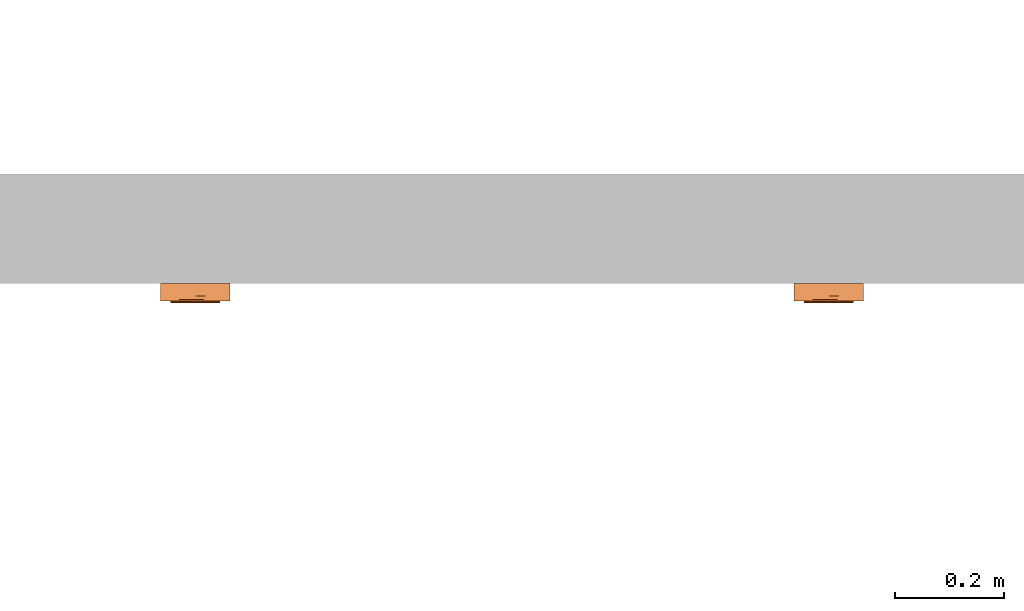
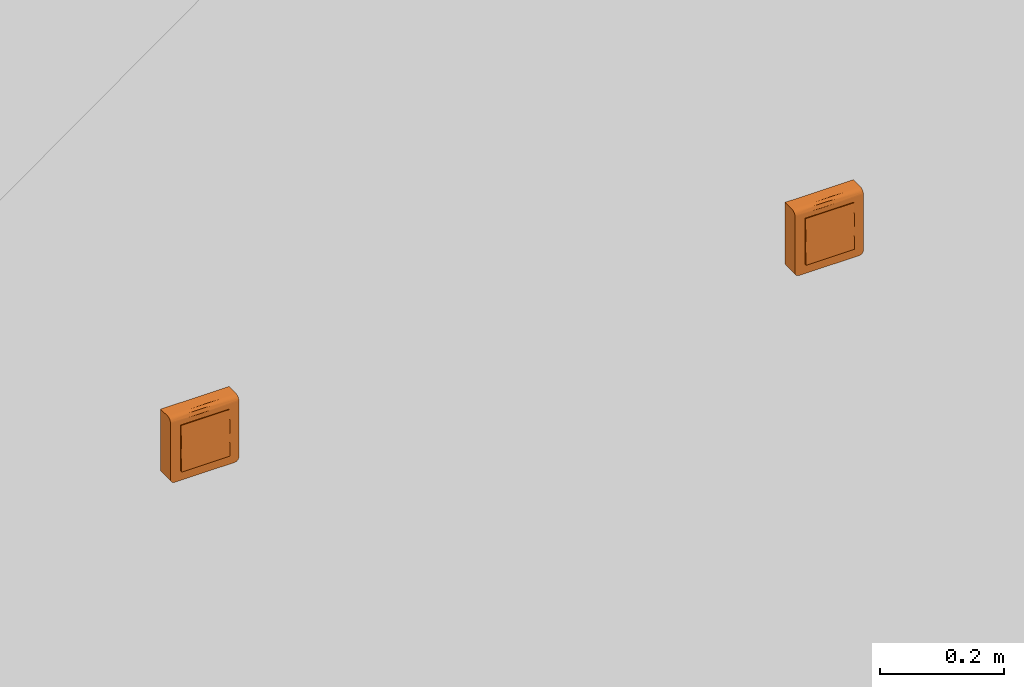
# One storey, part 164 of 197: 2 proxies.
"""IFC2X3 building model written with IfcOpenShell, lengths in metres."""

from ifc_helpers import new_model, entity, si_unit, converted_unit, direction, frame, origin, place, context, subcontext, project, spatial, faceted_brep, source, transform, mapped, material, material_list, type_object, type_shapes, element, save


model = new_model("IFC2X3")

# Units and contexts
model_context = context("Model", 3, precision=1e-05, world=origin(), true_north=direction((6.123031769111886e-17, 1.0)))
body_context = subcontext(model_context, "Body", "Model", "MODEL_VIEW")
ifc_project = project(units=[si_unit("LENGTHUNIT", "METRE"), converted_unit("PLANEANGLEUNIT", "DEGREE", entity("IfcPlaneAngleMeasure", 0.017453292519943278), si_unit("PLANEANGLEUNIT", "RADIAN"), dimensions=[0, 0, 0, 0, 0, 0, 0]), si_unit("AREAUNIT", "SQUARE_METRE")], contexts=[model_context])

# Site, building, storey
site_placement = place(None, origin())
site = spatial("IfcSite", under=ifc_project, at=site_placement, Name="Default", CompositionType="ELEMENT")
building_placement = place(site_placement, origin())
building = spatial("IfcBuilding", under=site, at=building_placement, CompositionType="ELEMENT")
storey_placement = place(building_placement, origin())
storey = spatial("IfcBuildingStorey", under=building, at=storey_placement, Name="Niveau 0", CompositionType="ELEMENT", Elevation=0.0)

# Proxies
ifc_material_1 = material(Name="BETCE-CADRE-BLANC")
ifc_material_2 = material(Name="BETCE-DOIGT-BLANC")
ifc_material_3 = material(Name="BETCE-ENJOLIVEUR-BLANC")
ifc_material_list = material_list([ifc_material_1, ifc_material_2, ifc_material_3])
building_element_proxy_type_1 = type_object("IfcBuildingElementProxyType", Name="Tableau commande 2x4 modules saillie:5 BP + 3 SA", PredefinedType="NOTDEFINED", material=ifc_material_list)
shared_shape_1 = source(origin(), body_context, "Body", "Brep", [
    faceted_brep([(0.06349999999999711, -0.022999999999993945, 0.0635), (-0.06350000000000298, -0.022999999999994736, 0.0635), (-0.06350000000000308, -0.022999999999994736, -0.055499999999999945), (-0.06322740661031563, -0.022999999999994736, -0.05757055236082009), (-0.06242820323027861, -0.02299999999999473, -0.059499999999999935), (-0.06115685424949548, -0.022999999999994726, -0.06115685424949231), (-0.05950000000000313, -0.022999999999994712, -0.06242820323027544), (-0.05757055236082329, -0.0229999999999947, -0.06322740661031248), (-0.05550000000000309, -0.022999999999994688, -0.06350000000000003), (0.055499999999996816, -0.022999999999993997, -0.0635000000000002), (0.057570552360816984, -0.022999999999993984, -0.06322740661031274), (0.05949999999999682, -0.022999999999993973, -0.062428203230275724), (0.06115685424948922, -0.022999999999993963, -0.061156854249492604), (0.062428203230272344, -0.022999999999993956, -0.05950000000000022), (0.0632274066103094, -0.022999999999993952, -0.0575705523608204), (0.06349999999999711, -0.022999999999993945, -0.05550000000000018), (-0.05550000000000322, 0.0, -0.06349999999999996), (-0.05757055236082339, 0.0, -0.06322740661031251), (-0.05950000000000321, 0.0, -0.062428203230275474), (-0.06115685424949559, 0.0, -0.06115685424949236), (-0.06242820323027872, 0.0, -0.05949999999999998), (-0.06322740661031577, 0.0, -0.05757055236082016), (-0.06350000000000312, 0.0, -0.055499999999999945), (-0.06350000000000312, 0.0, 0.0635), (0.06349999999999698, 0.0, 0.0635), (0.06349999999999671, 0.0, -0.05550000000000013), (0.06322740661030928, 0.0, -0.0575705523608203), (0.06242820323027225, 0.0, -0.05950000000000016), (0.06115685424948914, 0.0, -0.061156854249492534), (0.059499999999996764, 0.0, -0.062428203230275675), (0.05757055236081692, 0.0, -0.06322740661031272), (0.055499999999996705, 0.0, -0.0635)], [[[0, 1, 2, 3, 4, 5, 6, 7, 8, 9, 10, 11, 12, 13, 14, 15]], [[16, 17, 18, 19, 20, 21, 22, 23, 24, 25, 26, 27, 28, 29, 30, 31]], [[2, 1, 23, 22]], [[9, 8, 16, 31]], [[0, 15, 25, 24]], [[1, 0, 24, 23]], [[25, 15, 14, 26]], [[26, 14, 13, 27]], [[27, 13, 12, 28]], [[29, 11, 10, 30]], [[30, 10, 9, 31]], [[28, 12, 11, 29]], [[17, 16, 8, 7]], [[18, 17, 7, 6]], [[19, 18, 6, 5]], [[20, 19, 5, 4]], [[21, 20, 4, 3]], [[22, 21, 3, 2]]]),
    faceted_brep([(0.022499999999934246, -0.022999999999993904, -0.045000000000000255), (0.022499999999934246, -0.022999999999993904, 0.0), (0.04499999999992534, -0.022999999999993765, 0.0), (0.04499999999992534, -0.022999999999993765, -0.045000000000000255), (0.022499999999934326, -0.03574999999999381, -0.045000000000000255), (0.02249999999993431, -0.033499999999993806, 0.0), (0.044999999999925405, -0.03349999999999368, 0.0), (0.04499999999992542, -0.03574999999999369, -0.045000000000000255)], [[[0, 1, 2, 3]], [[1, 0, 4, 5]], [[2, 1, 5, 6]], [[3, 2, 6, 7]], [[0, 3, 7, 4]], [[5, 4, 7, 6]]]),
    faceted_brep([(0.0, -0.022999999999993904, -0.04500000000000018), (0.0, -0.022999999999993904, 0.0), (0.02249999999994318, -0.022999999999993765, 0.0), (0.02249999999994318, -0.022999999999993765, -0.04500000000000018), (0.0, -0.03574999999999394, -0.04500000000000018), (0.0, -0.03349999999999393, 0.0), (0.022499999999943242, -0.033499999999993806, 0.0), (0.02249999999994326, -0.03574999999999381, -0.04500000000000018)], [[[0, 1, 2, 3]], [[1, 0, 4, 5]], [[2, 1, 5, 6]], [[3, 2, 6, 7]], [[0, 3, 7, 4]], [[5, 4, 7, 6]]]),
    faceted_brep([(-0.02250000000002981, -0.022999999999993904, -0.0450000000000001), (-0.02250000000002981, -0.022999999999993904, 0.0), (0.0, -0.022999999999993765, 0.0), (0.0, -0.022999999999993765, -0.0450000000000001), (-0.02250000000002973, -0.03574999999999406, -0.0450000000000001), (-0.022500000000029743, -0.03349999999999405, 0.0), (0.0, -0.033499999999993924, 0.0), (0.0, -0.03574999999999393, -0.0450000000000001)], [[[0, 1, 2, 3]], [[1, 0, 4, 5]], [[2, 1, 5, 6]], [[3, 2, 6, 7]], [[0, 3, 7, 4]], [[5, 4, 7, 6]]]),
    faceted_brep([(-0.04500000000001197, -0.022999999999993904, -0.045000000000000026), (-0.04500000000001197, -0.022999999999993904, 0.0), (-0.022500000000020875, -0.022999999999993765, 0.0), (-0.022500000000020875, -0.022999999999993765, -0.045000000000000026), (-0.04500000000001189, -0.03574999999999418, -0.045000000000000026), (-0.0450000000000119, -0.03349999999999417, 0.0), (-0.02250000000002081, -0.03349999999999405, 0.0), (-0.022500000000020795, -0.03574999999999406, -0.045000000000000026)], [[[0, 1, 2, 3]], [[1, 0, 4, 5]], [[2, 1, 5, 6]], [[3, 2, 6, 7]], [[0, 3, 7, 4]], [[5, 4, 7, 6]]]),
    faceted_brep([(0.02249999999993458, -0.03349999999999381, 0.04499999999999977), (0.022499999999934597, -0.03574999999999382, 0.0), (0.04499999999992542, -0.0357499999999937, 0.0), (0.044999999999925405, -0.03349999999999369, 0.04499999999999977), (0.022499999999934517, -0.022999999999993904, 0.0), (0.022499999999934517, -0.022999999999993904, 0.04499999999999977), (0.04499999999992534, -0.022999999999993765, 0.04499999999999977), (0.04499999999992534, -0.022999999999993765, 0.0)], [[[0, 1, 2, 3]], [[4, 5, 6, 7]], [[5, 4, 1, 0]], [[6, 5, 0, 3]], [[7, 6, 3, 2]], [[4, 7, 2, 1]]]),
    faceted_brep([(0.0, -0.03349999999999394, 0.044999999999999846), (0.0, -0.035749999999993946, 0.0), (0.02249999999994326, -0.03574999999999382, 0.0), (0.022499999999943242, -0.03349999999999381, 0.044999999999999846), (0.0, -0.022999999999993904, 0.0), (0.0, -0.022999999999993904, 0.044999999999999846), (0.02249999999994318, -0.022999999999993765, 0.04499999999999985), (0.02249999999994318, -0.022999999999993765, 0.0)], [[[0, 1, 2, 3]], [[4, 5, 6, 7]], [[5, 4, 1, 0]], [[6, 5, 0, 3]], [[7, 6, 3, 2]], [[4, 7, 2, 1]]]),
    faceted_brep([(-0.022500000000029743, -0.03349999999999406, 0.04499999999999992), (-0.02250000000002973, -0.03574999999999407, 0.0), (0.0, -0.03574999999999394, 0.0), (0.0, -0.03349999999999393, 0.04499999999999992), (-0.02250000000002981, -0.022999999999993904, 0.0), (-0.02250000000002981, -0.022999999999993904, 0.04499999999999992), (0.0, -0.022999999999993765, 0.04499999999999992), (0.0, -0.022999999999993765, 0.0)], [[[0, 1, 2, 3]], [[4, 5, 6, 7]], [[5, 4, 1, 0]], [[6, 5, 0, 3]], [[7, 6, 3, 2]], [[4, 7, 2, 1]]]),
    faceted_brep([(-0.04500000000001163, -0.03349999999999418, 0.045), (-0.045000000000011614, -0.03574999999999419, 0.0), (-0.022500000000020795, -0.035749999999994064, 0.0), (-0.02250000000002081, -0.03349999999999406, 0.045), (-0.0450000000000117, -0.022999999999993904, 0.0), (-0.0450000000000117, -0.022999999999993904, 0.045), (-0.022500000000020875, -0.022999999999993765, 0.045000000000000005), (-0.022500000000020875, -0.022999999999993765, 0.0)], [[[0, 1, 2, 3]], [[4, 5, 6, 7]], [[5, 4, 1, 0]], [[6, 5, 0, 3]], [[7, 6, 3, 2]], [[4, 7, 2, 1]]]),
    faceted_brep([(0.06349999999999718, -0.03199999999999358, -0.055500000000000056), (0.063499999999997, -0.03199999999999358, 0.05450000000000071), (0.04499999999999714, -0.03199999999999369, -0.045000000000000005), (0.05549999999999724, -0.03199999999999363, -0.06350000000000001), (0.057570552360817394, -0.03199999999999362, -0.06322740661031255), (0.06322740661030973, -0.03199999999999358, -0.05757055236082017), (0.04499999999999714, -0.03199999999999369, 0.045), (-0.04500000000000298, -0.031999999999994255, 0.045000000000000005), (-0.011124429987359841, -0.03199999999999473, 0.054500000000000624), (-0.06350000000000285, -0.03199999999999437, 0.05450000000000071), (-0.04500000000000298, -0.031999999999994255, -0.045000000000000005), (-0.06350000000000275, -0.03199999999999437, -0.05550000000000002), (-0.05550000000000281, -0.03199999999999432, -0.06350000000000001), (-0.05757055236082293, -0.03199999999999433, -0.06322740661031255), (-0.06322740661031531, -0.031999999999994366, -0.05757055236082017), (-0.05950000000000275, -0.031999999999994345, -0.062428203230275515), (-0.06242820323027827, -0.03199999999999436, -0.05950000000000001), (-0.06115685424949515, -0.03199999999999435, -0.06115685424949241), (0.05949999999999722, -0.0319999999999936, -0.062428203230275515), (0.062428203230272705, -0.03199999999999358, -0.05949999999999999), (0.06115685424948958, -0.031999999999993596, -0.061156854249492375), (-0.06350000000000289, -0.02299999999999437, -0.05550000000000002), (-0.06350000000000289, -0.02299999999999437, 0.06350000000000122), (-0.04500000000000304, -0.02299999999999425, 0.045000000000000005), (-0.04500000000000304, -0.02299999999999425, -0.045000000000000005), (-0.05550000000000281, -0.02299999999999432, -0.06350000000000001), (-0.06322740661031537, -0.022999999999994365, -0.05757055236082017), (0.04499999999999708, -0.022999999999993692, 0.045000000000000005), (0.011124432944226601, -0.022999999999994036, 0.06350000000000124), (0.06349999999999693, -0.022999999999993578, 0.0635), (0.06349999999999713, -0.022999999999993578, -0.05550000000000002), (0.04499999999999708, -0.022999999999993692, -0.045000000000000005), (0.05549999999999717, -0.02299999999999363, -0.06350000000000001), (0.06322740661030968, -0.022999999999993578, -0.05757055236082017), (0.05757055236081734, -0.022999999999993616, -0.06322740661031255), (0.06242820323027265, -0.022999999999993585, -0.05949999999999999), (0.05949999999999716, -0.022999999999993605, -0.062428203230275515), (0.06115685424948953, -0.02299999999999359, -0.061156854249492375), (-0.05757055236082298, -0.02299999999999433, -0.06322740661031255), (-0.062428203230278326, -0.022999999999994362, -0.05950000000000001), (-0.05950000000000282, -0.022999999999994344, -0.062428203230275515), (-0.0611568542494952, -0.02299999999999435, -0.06115685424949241), (0.06349999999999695, -0.025329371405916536, 0.06319333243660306), (0.06349999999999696, -0.02749999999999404, 0.06229422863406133), (0.06349999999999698, -0.029363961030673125, 0.060863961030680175), (0.06349999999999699, -0.03079422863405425, 0.05900000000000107), (0.06349999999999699, -0.03169333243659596, 0.05682937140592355), (-0.06350000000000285, -0.03169333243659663, 0.0568293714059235), (-0.06350000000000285, -0.030794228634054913, 0.059000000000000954), (-0.06350000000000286, -0.029363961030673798, 0.06086396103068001), (-0.06350000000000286, -0.027499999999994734, 0.062294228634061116), (-0.06350000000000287, -0.025329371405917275, 0.06319333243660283), (-0.010857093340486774, -0.029120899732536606, 0.06109807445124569)], [[[0, 1, 2]], [[3, 0, 2]], [[0, 3, 4]], [[5, 0, 4]], [[2, 1, 6]], [[1, 7, 6]], [[7, 1, 8]], [[7, 8, 9]], [[10, 7, 9]], [[11, 10, 9]], [[12, 10, 11]], [[12, 11, 13]], [[13, 11, 14]], [[15, 13, 14]], [[16, 15, 14]], [[15, 16, 17]], [[10, 12, 3]], [[2, 10, 3]], [[5, 4, 18]], [[5, 18, 19]], [[20, 19, 18]], [[21, 22, 23]], [[24, 21, 23]], [[25, 21, 24]], [[26, 21, 25]], [[22, 27, 23]], [[27, 22, 28]], [[27, 28, 29]], [[30, 27, 29]], [[31, 27, 30]], [[32, 31, 30]], [[32, 30, 33]], [[32, 33, 34]], [[33, 35, 34]], [[35, 36, 34]], [[36, 35, 37]], [[31, 32, 25]], [[26, 25, 38]], [[24, 31, 25]], [[39, 26, 38]], [[39, 38, 40]], [[41, 39, 40]], [[1, 0, 30, 29, 42, 43, 44, 45, 46]], [[33, 30, 0, 5]], [[35, 33, 5, 19]], [[37, 35, 19, 20]], [[36, 37, 20, 18]], [[34, 36, 18, 4]], [[32, 34, 4, 3]], [[25, 32, 3, 12]], [[38, 25, 12, 13]], [[40, 38, 13, 15]], [[41, 40, 15, 17]], [[39, 41, 17, 16]], [[26, 39, 16, 14]], [[21, 26, 14, 11]], [[22, 21, 11, 9, 47, 48, 49, 50, 51]], [[24, 23, 7, 10]], [[31, 24, 10, 2]], [[27, 31, 2, 6]], [[23, 27, 6, 7]], [[52, 8, 45]], [[47, 9, 8]], [[1, 46, 8]], [[44, 52, 45]], [[46, 45, 8]], [[50, 52, 51]], [[48, 47, 8]], [[28, 52, 43]], [[48, 52, 49]], [[42, 29, 28]], [[28, 22, 51]], [[48, 8, 52]], [[28, 43, 42]], [[44, 43, 52]], [[52, 50, 49]], [[52, 28, 51]]]),
])
type_shapes(building_element_proxy_type_1, [shared_shape_1])
proxy_1_placement = place(storey_placement, frame((-358.47277966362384, 116.01635778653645, 1.1)))
element("IfcBuildingElementProxy", 1, at=proxy_1_placement, inside=storey, type_object=building_element_proxy_type_1, material=ifc_material_list, Name="Tableau commande 2x4 modules saillie:5 BP + 3 SA", ObjectType="Tableau commande 2x4 modules saillie:5 BP + 3 SA", context=body_context, shape_type="MappedRepresentation", body=[
    mapped(shared_shape_1, transform((0.0, 0.0, 0.0), scale=1.0)),
])
building_element_proxy_type_2 = type_object("IfcBuildingElementProxyType", Name="Tableau commande 2x4 modules saillie:6 BP + 2 SA", PredefinedType="NOTDEFINED", material=ifc_material_list)
shared_shape_2 = source(origin(), body_context, "Body", "Brep", [
    faceted_brep([(0.06349999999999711, -0.022999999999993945, 0.0635), (-0.06350000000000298, -0.022999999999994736, 0.0635), (-0.06350000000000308, -0.022999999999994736, -0.055499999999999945), (-0.06322740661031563, -0.022999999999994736, -0.05757055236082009), (-0.06242820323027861, -0.02299999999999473, -0.059499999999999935), (-0.06115685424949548, -0.022999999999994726, -0.06115685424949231), (-0.05950000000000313, -0.022999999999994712, -0.06242820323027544), (-0.05757055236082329, -0.0229999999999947, -0.06322740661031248), (-0.05550000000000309, -0.022999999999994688, -0.06350000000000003), (0.055499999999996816, -0.022999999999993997, -0.0635000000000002), (0.057570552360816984, -0.022999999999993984, -0.06322740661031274), (0.05949999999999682, -0.022999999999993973, -0.062428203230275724), (0.06115685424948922, -0.022999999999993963, -0.061156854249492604), (0.062428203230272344, -0.022999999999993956, -0.05950000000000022), (0.0632274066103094, -0.022999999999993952, -0.0575705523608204), (0.06349999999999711, -0.022999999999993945, -0.05550000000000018), (-0.05550000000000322, 0.0, -0.06349999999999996), (-0.05757055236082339, 0.0, -0.06322740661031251), (-0.05950000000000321, 0.0, -0.062428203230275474), (-0.06115685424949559, 0.0, -0.06115685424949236), (-0.06242820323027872, 0.0, -0.05949999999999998), (-0.06322740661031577, 0.0, -0.05757055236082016), (-0.06350000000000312, 0.0, -0.055499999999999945), (-0.06350000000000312, 0.0, 0.0635), (0.06349999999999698, 0.0, 0.0635), (0.06349999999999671, 0.0, -0.05550000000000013), (0.06322740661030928, 0.0, -0.0575705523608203), (0.06242820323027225, 0.0, -0.05950000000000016), (0.06115685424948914, 0.0, -0.061156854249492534), (0.059499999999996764, 0.0, -0.062428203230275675), (0.05757055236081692, 0.0, -0.06322740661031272), (0.055499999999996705, 0.0, -0.0635)], [[[0, 1, 2, 3, 4, 5, 6, 7, 8, 9, 10, 11, 12, 13, 14, 15]], [[16, 17, 18, 19, 20, 21, 22, 23, 24, 25, 26, 27, 28, 29, 30, 31]], [[2, 1, 23, 22]], [[9, 8, 16, 31]], [[0, 15, 25, 24]], [[1, 0, 24, 23]], [[25, 15, 14, 26]], [[26, 14, 13, 27]], [[27, 13, 12, 28]], [[29, 11, 10, 30]], [[30, 10, 9, 31]], [[28, 12, 11, 29]], [[17, 16, 8, 7]], [[18, 17, 7, 6]], [[19, 18, 6, 5]], [[20, 19, 5, 4]], [[21, 20, 4, 3]], [[22, 21, 3, 2]]]),
    faceted_brep([(0.022499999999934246, -0.022999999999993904, -0.045000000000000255), (0.022499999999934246, -0.022999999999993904, 0.0), (0.04499999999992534, -0.022999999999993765, 0.0), (0.04499999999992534, -0.022999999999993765, -0.045000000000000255), (0.022499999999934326, -0.03574999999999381, -0.045000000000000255), (0.02249999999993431, -0.033499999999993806, 0.0), (0.044999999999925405, -0.03349999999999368, 0.0), (0.04499999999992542, -0.03574999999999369, -0.045000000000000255)], [[[0, 1, 2, 3]], [[1, 0, 4, 5]], [[2, 1, 5, 6]], [[3, 2, 6, 7]], [[0, 3, 7, 4]], [[5, 4, 7, 6]]]),
    faceted_brep([(0.0, -0.022999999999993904, -0.04500000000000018), (0.0, -0.022999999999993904, 0.0), (0.02249999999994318, -0.022999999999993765, 0.0), (0.02249999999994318, -0.022999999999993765, -0.04500000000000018), (0.0, -0.03574999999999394, -0.04500000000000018), (0.0, -0.03349999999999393, 0.0), (0.022499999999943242, -0.033499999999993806, 0.0), (0.02249999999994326, -0.03574999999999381, -0.04500000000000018)], [[[0, 1, 2, 3]], [[1, 0, 4, 5]], [[2, 1, 5, 6]], [[3, 2, 6, 7]], [[0, 3, 7, 4]], [[5, 4, 7, 6]]]),
    faceted_brep([(-0.02250000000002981, -0.022999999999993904, -0.0450000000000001), (-0.02250000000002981, -0.022999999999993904, 0.0), (0.0, -0.022999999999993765, 0.0), (0.0, -0.022999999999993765, -0.0450000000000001), (-0.02250000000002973, -0.03574999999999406, -0.0450000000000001), (-0.022500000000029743, -0.03349999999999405, 0.0), (0.0, -0.033499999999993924, 0.0), (0.0, -0.03574999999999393, -0.0450000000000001)], [[[0, 1, 2, 3]], [[1, 0, 4, 5]], [[2, 1, 5, 6]], [[3, 2, 6, 7]], [[0, 3, 7, 4]], [[5, 4, 7, 6]]]),
    faceted_brep([(-0.04500000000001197, -0.022999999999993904, -0.045000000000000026), (-0.04500000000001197, -0.022999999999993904, 0.0), (-0.022500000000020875, -0.022999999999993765, 0.0), (-0.022500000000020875, -0.022999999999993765, -0.045000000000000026), (-0.04500000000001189, -0.03574999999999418, -0.045000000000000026), (-0.0450000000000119, -0.03349999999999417, 0.0), (-0.02250000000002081, -0.03349999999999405, 0.0), (-0.022500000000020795, -0.03574999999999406, -0.045000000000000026)], [[[0, 1, 2, 3]], [[1, 0, 4, 5]], [[2, 1, 5, 6]], [[3, 2, 6, 7]], [[0, 3, 7, 4]], [[5, 4, 7, 6]]]),
    faceted_brep([(0.02249999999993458, -0.03349999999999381, 0.04499999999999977), (0.022499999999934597, -0.03574999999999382, 0.0), (0.04499999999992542, -0.0357499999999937, 0.0), (0.044999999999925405, -0.03349999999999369, 0.04499999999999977), (0.022499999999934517, -0.022999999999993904, 0.0), (0.022499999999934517, -0.022999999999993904, 0.04499999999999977), (0.04499999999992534, -0.022999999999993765, 0.04499999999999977), (0.04499999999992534, -0.022999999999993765, 0.0)], [[[0, 1, 2, 3]], [[4, 5, 6, 7]], [[5, 4, 1, 0]], [[6, 5, 0, 3]], [[7, 6, 3, 2]], [[4, 7, 2, 1]]]),
    faceted_brep([(0.0, -0.03349999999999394, 0.044999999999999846), (0.0, -0.035749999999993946, 0.0), (0.02249999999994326, -0.03574999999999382, 0.0), (0.022499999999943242, -0.03349999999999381, 0.044999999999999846), (0.0, -0.022999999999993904, 0.0), (0.0, -0.022999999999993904, 0.044999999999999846), (0.02249999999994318, -0.022999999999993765, 0.04499999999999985), (0.02249999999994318, -0.022999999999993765, 0.0)], [[[0, 1, 2, 3]], [[4, 5, 6, 7]], [[5, 4, 1, 0]], [[6, 5, 0, 3]], [[7, 6, 3, 2]], [[4, 7, 2, 1]]]),
    faceted_brep([(-0.022500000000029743, -0.03349999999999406, 0.04499999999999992), (-0.02250000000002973, -0.03574999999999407, 0.0), (0.0, -0.03574999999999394, 0.0), (0.0, -0.03349999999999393, 0.04499999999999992), (-0.02250000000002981, -0.022999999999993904, 0.0), (-0.02250000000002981, -0.022999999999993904, 0.04499999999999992), (0.0, -0.022999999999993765, 0.04499999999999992), (0.0, -0.022999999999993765, 0.0)], [[[0, 1, 2, 3]], [[4, 5, 6, 7]], [[5, 4, 1, 0]], [[6, 5, 0, 3]], [[7, 6, 3, 2]], [[4, 7, 2, 1]]]),
    faceted_brep([(-0.04500000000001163, -0.03349999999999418, 0.045), (-0.045000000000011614, -0.03574999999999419, 0.0), (-0.022500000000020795, -0.035749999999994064, 0.0), (-0.02250000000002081, -0.03349999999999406, 0.045), (-0.0450000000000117, -0.022999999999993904, 0.0), (-0.0450000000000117, -0.022999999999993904, 0.045), (-0.022500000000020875, -0.022999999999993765, 0.045000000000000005), (-0.022500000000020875, -0.022999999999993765, 0.0)], [[[0, 1, 2, 3]], [[4, 5, 6, 7]], [[5, 4, 1, 0]], [[6, 5, 0, 3]], [[7, 6, 3, 2]], [[4, 7, 2, 1]]]),
    faceted_brep([(0.06349999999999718, -0.03199999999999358, -0.055500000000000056), (0.063499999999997, -0.03199999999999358, 0.05450000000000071), (0.04499999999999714, -0.03199999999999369, -0.045000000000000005), (0.05549999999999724, -0.03199999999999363, -0.06350000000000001), (0.057570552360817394, -0.03199999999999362, -0.06322740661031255), (0.06322740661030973, -0.03199999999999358, -0.05757055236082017), (0.04499999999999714, -0.03199999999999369, 0.045), (-0.04500000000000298, -0.031999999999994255, 0.045000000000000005), (-0.011124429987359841, -0.03199999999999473, 0.054500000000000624), (-0.06350000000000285, -0.03199999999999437, 0.05450000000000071), (-0.04500000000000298, -0.031999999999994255, -0.045000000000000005), (-0.06350000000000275, -0.03199999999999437, -0.05550000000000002), (-0.05550000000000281, -0.03199999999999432, -0.06350000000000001), (-0.05757055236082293, -0.03199999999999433, -0.06322740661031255), (-0.06322740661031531, -0.031999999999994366, -0.05757055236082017), (-0.05950000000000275, -0.031999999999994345, -0.062428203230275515), (-0.06242820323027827, -0.03199999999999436, -0.05950000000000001), (-0.06115685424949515, -0.03199999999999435, -0.06115685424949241), (0.05949999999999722, -0.0319999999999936, -0.062428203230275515), (0.062428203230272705, -0.03199999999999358, -0.05949999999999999), (0.06115685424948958, -0.031999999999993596, -0.061156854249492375), (-0.06350000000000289, -0.02299999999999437, -0.05550000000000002), (-0.06350000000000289, -0.02299999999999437, 0.06350000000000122), (-0.04500000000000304, -0.02299999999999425, 0.045000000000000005), (-0.04500000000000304, -0.02299999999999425, -0.045000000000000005), (-0.05550000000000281, -0.02299999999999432, -0.06350000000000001), (-0.06322740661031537, -0.022999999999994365, -0.05757055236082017), (0.04499999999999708, -0.022999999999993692, 0.045000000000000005), (0.011124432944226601, -0.022999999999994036, 0.06350000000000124), (0.06349999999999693, -0.022999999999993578, 0.0635), (0.06349999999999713, -0.022999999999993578, -0.05550000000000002), (0.04499999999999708, -0.022999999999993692, -0.045000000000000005), (0.05549999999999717, -0.02299999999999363, -0.06350000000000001), (0.06322740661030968, -0.022999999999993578, -0.05757055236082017), (0.05757055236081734, -0.022999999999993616, -0.06322740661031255), (0.06242820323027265, -0.022999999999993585, -0.05949999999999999), (0.05949999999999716, -0.022999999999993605, -0.062428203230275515), (0.06115685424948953, -0.02299999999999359, -0.061156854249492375), (-0.05757055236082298, -0.02299999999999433, -0.06322740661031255), (-0.062428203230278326, -0.022999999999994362, -0.05950000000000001), (-0.05950000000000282, -0.022999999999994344, -0.062428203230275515), (-0.0611568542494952, -0.02299999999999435, -0.06115685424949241), (0.06349999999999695, -0.025329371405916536, 0.06319333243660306), (0.06349999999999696, -0.02749999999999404, 0.06229422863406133), (0.06349999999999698, -0.029363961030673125, 0.060863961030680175), (0.06349999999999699, -0.03079422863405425, 0.05900000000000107), (0.06349999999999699, -0.03169333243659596, 0.05682937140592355), (-0.06350000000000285, -0.03169333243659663, 0.0568293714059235), (-0.06350000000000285, -0.030794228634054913, 0.059000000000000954), (-0.06350000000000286, -0.029363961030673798, 0.06086396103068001), (-0.06350000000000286, -0.027499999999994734, 0.062294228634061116), (-0.06350000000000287, -0.025329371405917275, 0.06319333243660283), (-0.010857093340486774, -0.029120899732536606, 0.06109807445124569)], [[[0, 1, 2]], [[3, 0, 2]], [[0, 3, 4]], [[5, 0, 4]], [[2, 1, 6]], [[1, 7, 6]], [[7, 1, 8]], [[7, 8, 9]], [[10, 7, 9]], [[11, 10, 9]], [[12, 10, 11]], [[12, 11, 13]], [[13, 11, 14]], [[15, 13, 14]], [[16, 15, 14]], [[15, 16, 17]], [[10, 12, 3]], [[2, 10, 3]], [[5, 4, 18]], [[5, 18, 19]], [[20, 19, 18]], [[21, 22, 23]], [[24, 21, 23]], [[25, 21, 24]], [[26, 21, 25]], [[22, 27, 23]], [[27, 22, 28]], [[27, 28, 29]], [[30, 27, 29]], [[31, 27, 30]], [[32, 31, 30]], [[32, 30, 33]], [[32, 33, 34]], [[33, 35, 34]], [[35, 36, 34]], [[36, 35, 37]], [[31, 32, 25]], [[26, 25, 38]], [[24, 31, 25]], [[39, 26, 38]], [[39, 38, 40]], [[41, 39, 40]], [[1, 0, 30, 29, 42, 43, 44, 45, 46]], [[33, 30, 0, 5]], [[35, 33, 5, 19]], [[37, 35, 19, 20]], [[36, 37, 20, 18]], [[34, 36, 18, 4]], [[32, 34, 4, 3]], [[25, 32, 3, 12]], [[38, 25, 12, 13]], [[40, 38, 13, 15]], [[41, 40, 15, 17]], [[39, 41, 17, 16]], [[26, 39, 16, 14]], [[21, 26, 14, 11]], [[22, 21, 11, 9, 47, 48, 49, 50, 51]], [[24, 23, 7, 10]], [[31, 24, 10, 2]], [[27, 31, 2, 6]], [[23, 27, 6, 7]], [[52, 8, 45]], [[47, 9, 8]], [[1, 46, 8]], [[44, 52, 45]], [[46, 45, 8]], [[50, 52, 51]], [[48, 47, 8]], [[28, 52, 43]], [[48, 52, 49]], [[42, 29, 28]], [[28, 22, 51]], [[48, 8, 52]], [[28, 43, 42]], [[44, 43, 52]], [[52, 50, 49]], [[52, 28, 51]]]),
])
type_shapes(building_element_proxy_type_2, [shared_shape_2])
proxy_2_placement = place(storey_placement, frame((-357.31377966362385, 116.01635778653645, 1.1)))
element("IfcBuildingElementProxy", 2, at=proxy_2_placement, inside=storey, type_object=building_element_proxy_type_2, material=ifc_material_list, Name="Tableau commande 2x4 modules saillie:6 BP + 2 SA", ObjectType="Tableau commande 2x4 modules saillie:6 BP + 2 SA", context=body_context, shape_type="MappedRepresentation", body=[
    mapped(shared_shape_2, transform((0.0, 0.0, 0.0), scale=1.0)),
])

save(model, "model.ifc")
